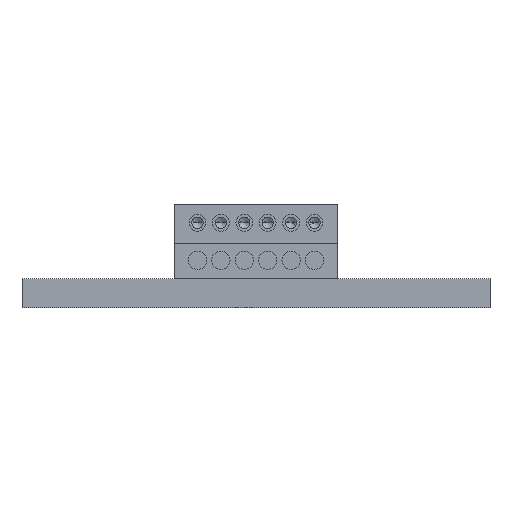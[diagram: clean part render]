
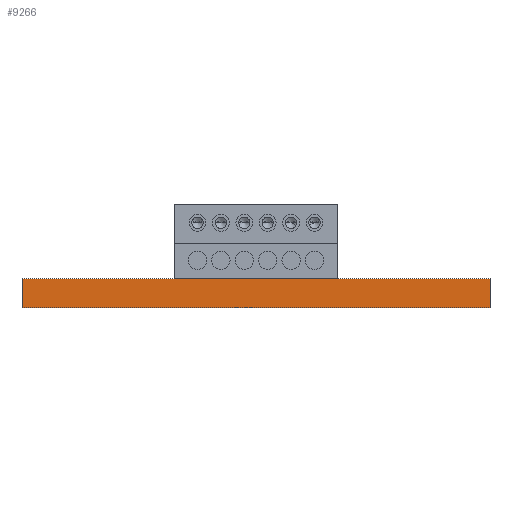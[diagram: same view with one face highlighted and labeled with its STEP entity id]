
A CAD part, front view. The second image highlights one B-rep face of the part: STEP entity #9266.
In plain terms, the highlighted planar face has unit normal (0, -1, 0).
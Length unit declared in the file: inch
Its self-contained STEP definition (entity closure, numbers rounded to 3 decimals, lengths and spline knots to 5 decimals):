
#268 = VERTEX_POINT ( 'NONE', #2359 ) ;
#424 = CARTESIAN_POINT ( 'NONE',  ( 0., 0., 0. ) ) ;
#582 = ORIENTED_EDGE ( 'NONE', *, *, #1562, .T. ) ;
#609 = CARTESIAN_POINT ( 'NONE',  ( 0.5, 0., 0.031 ) ) ;
#1039 = DIRECTION ( 'NONE',  ( 0., 0., 1. ) ) ;
#1088 = PLANE ( 'NONE',  #5686 ) ;
#1212 = DIRECTION ( 'NONE',  ( 0., 1., 0. ) ) ;
#1274 = VECTOR ( 'NONE', #11801, 39.37008 ) ;
#1551 = ORIENTED_EDGE ( 'NONE', *, *, #10608, .F. ) ;
#1562 = EDGE_CURVE ( 'NONE', #7612, #268, #10396, .T. ) ;
#1672 = CARTESIAN_POINT ( 'NONE',  ( 0.5, 0., 0.031 ) ) ;
#2061 = ORIENTED_EDGE ( 'NONE', *, *, #3024, .T. ) ;
#2294 = VECTOR ( 'NONE', #10450, 39.37008 ) ;
#2359 = CARTESIAN_POINT ( 'NONE',  ( 0.5, 0., 0. ) ) ;
#2398 = CARTESIAN_POINT ( 'NONE',  ( 0.5, 0., 0.031 ) ) ;
#2508 = DIRECTION ( 'NONE',  ( 0., 0., -1. ) ) ;
#2964 = DIRECTION ( 'NONE',  ( 0., 0., -1. ) ) ;
#3024 = EDGE_CURVE ( 'NONE', #8365, #7612, #10316, .T. ) ;
#3255 = VECTOR ( 'NONE', #2508, 39.37008 ) ;
#4750 = CARTESIAN_POINT ( 'NONE',  ( 0.5, 0., 0.031 ) ) ;
#5210 = LINE ( 'NONE', #2398, #1274 ) ;
#5382 = CARTESIAN_POINT ( 'NONE',  ( 0., 0., 0.031 ) ) ;
#5686 = AXIS2_PLACEMENT_3D ( 'NONE', #4750, #1212, #1039 ) ;
#5728 = VECTOR ( 'NONE', #2964, 39.37008 ) ;
#5758 = CARTESIAN_POINT ( 'NONE',  ( 0., 0., 0.031 ) ) ;
#6676 = FACE_OUTER_BOUND ( 'NONE', #9573, .T. ) ;
#7612 = VERTEX_POINT ( 'NONE', #424 ) ;
#7748 = VERTEX_POINT ( 'NONE', #609 ) ;
#8365 = VERTEX_POINT ( 'NONE', #5382 ) ;
#9266 = ADVANCED_FACE ( 'NONE', ( #6676 ), #1088, .F. ) ;
#9573 = EDGE_LOOP ( 'NONE', ( #582, #1551, #9734, #2061 ) ) ;
#9734 = ORIENTED_EDGE ( 'NONE', *, *, #11151, .F. ) ;
#9976 = LINE ( 'NONE', #1672, #3255 ) ;
#10316 = LINE ( 'NONE', #5758, #5728 ) ;
#10396 = LINE ( 'NONE', #11404, #2294 ) ;
#10450 = DIRECTION ( 'NONE',  ( 1., 0., 0. ) ) ;
#10608 = EDGE_CURVE ( 'NONE', #7748, #268, #9976, .T. ) ;
#11151 = EDGE_CURVE ( 'NONE', #8365, #7748, #5210, .T. ) ;
#11404 = CARTESIAN_POINT ( 'NONE',  ( 0.5, 0., 0. ) ) ;
#11801 = DIRECTION ( 'NONE',  ( 1., 0., 0. ) ) ;
